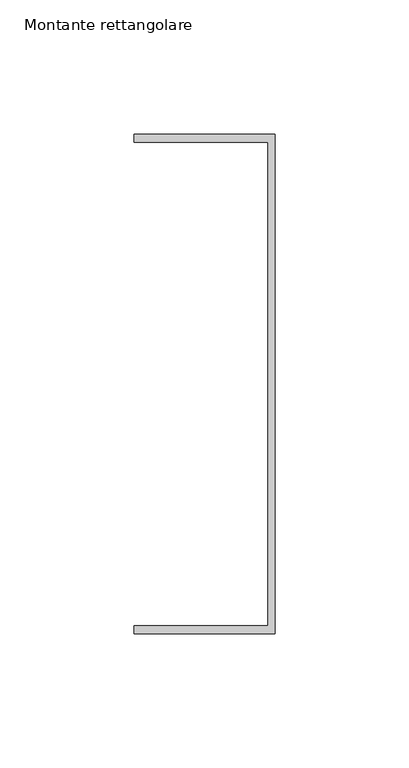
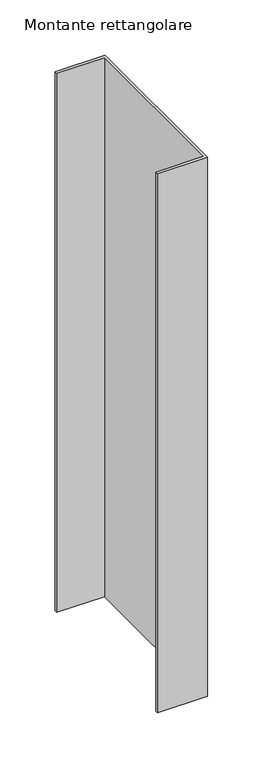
"""IFC4 building model written with IfcOpenShell, lengths in millimetres: member geometry, Montante rettangolare : Verde Profilo's RaceWaterDrainFloor."""

from ifc_helpers import new_model, si_unit, frame, origin, place, context, project, spatial, polyline, outline, extrude, source, transform, mapped, element, save


def montante_rettangolare_b34aec30(model_context):
    return source(origin(), model_context, "Body", "SweptSolid", [
        extrude(outline(polyline([(0.0, -186.0), (-52.4801246, -186.0), (-52.4801246, -183.0236719), (-2.4801246, -183.0236719), (-2.4801246, -2.9763281), (-52.4801246, -2.9763281), (-52.4801246, 0.0), (0.0, 0.0), (0.0, -186.0)])), frame((0.0, 0.0, -596.2404059), z_axis=(0.0, 0.0, 1.0), x_axis=(1.0, 0.0, 0.0)), (0.0, 0.0, 1.0), 596.2404059),
    ])


if __name__ == "__main__":
    model = new_model("IFC4")
    model_context = context("Model", 3, world=origin())
    ifc_project = project(units=[si_unit("LENGTHUNIT", "METRE", prefix="MILLI")], contexts=[model_context])
    site = spatial("IfcSite", under=ifc_project)
    building = spatial("IfcBuilding", under=site)
    placement = place(None, origin())
    montante_rettangolare_shape = montante_rettangolare_b34aec30(model_context)
    element("IfcMember", 1, ObjectType="Montante rettangolare : Verde Profilo's RaceWaterDrainFloor", at=placement, inside=building, context=model_context, shape_type="MappedRepresentation", body=[
        mapped(montante_rettangolare_shape, transform((0.0, 0.0, 0.0), x_axis=(1.0, 0.0, 0.0), y_axis=(0.0, 1.0, 0.0), z_axis=(0.0, 0.0, 1.0))),
    ])
    save(model, "model.ifc")
